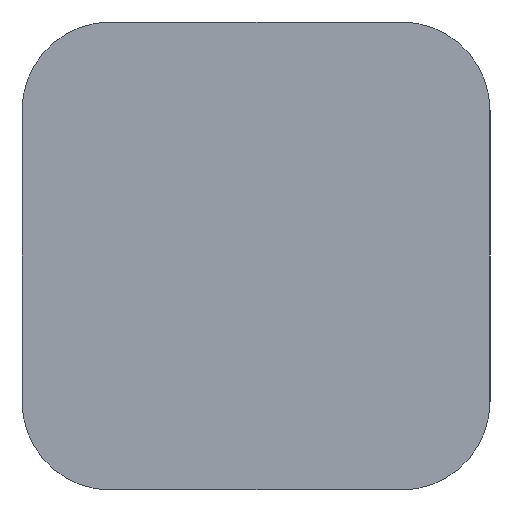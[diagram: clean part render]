
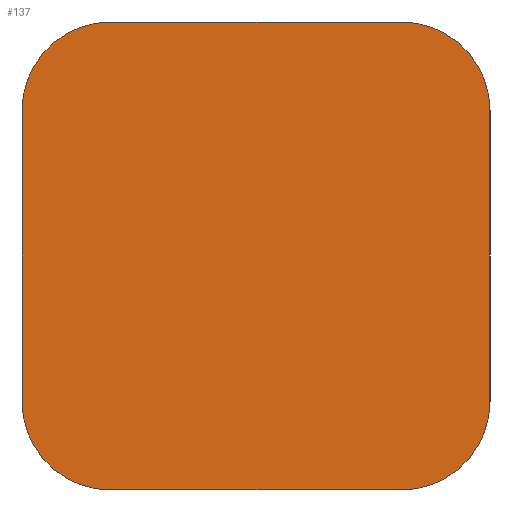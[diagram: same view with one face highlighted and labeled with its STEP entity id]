
A CAD part, left-side view. The second image highlights one B-rep face of the part: STEP entity #137.
In plain terms, the highlighted planar face has unit normal (-1, 0, 0).
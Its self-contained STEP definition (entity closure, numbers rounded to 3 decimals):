
#21 = EDGE_CURVE('',#22,#24,#26,.T.);
#22 = VERTEX_POINT('',#23);
#23 = CARTESIAN_POINT('',(-40.318,8.4,0.7));
#24 = VERTEX_POINT('',#25);
#25 = CARTESIAN_POINT('',(-40.318,8.4,3.));
#26 = SURFACE_CURVE('',#27,(#31,#43),.PCURVE_S1.);
#27 = LINE('',#28,#29);
#28 = CARTESIAN_POINT('',(-40.318,8.4,0.));
#29 = VECTOR('',#30,1.);
#30 = DIRECTION('',(0.,0.,1.));
#31 = PCURVE('',#32,#37);
#32 = PLANE('',#33);
#33 = AXIS2_PLACEMENT_3D('',#34,#35,#36);
#34 = CARTESIAN_POINT('',(-40.318,8.4,0.));
#35 = DIRECTION('',(0.,1.,0.));
#36 = DIRECTION('',(1.,0.,0.));
#37 = DEFINITIONAL_REPRESENTATION('',(#38),#42);
#38 = LINE('',#39,#40);
#39 = CARTESIAN_POINT('',(0.,0.));
#40 = VECTOR('',#41,1.);
#41 = DIRECTION('',(0.,-1.));
#42 = ( GEOMETRIC_REPRESENTATION_CONTEXT(2) 
PARAMETRIC_REPRESENTATION_CONTEXT() REPRESENTATION_CONTEXT('2D SPACE',''
  ) );
#43 = PCURVE('',#44,#49);
#44 = PLANE('',#45);
#45 = AXIS2_PLACEMENT_3D('',#46,#47,#48);
#46 = CARTESIAN_POINT('',(-40.318,4.7,0.));
#47 = DIRECTION('',(-1.,0.,0.));
#48 = DIRECTION('',(0.,1.,0.));
#49 = DEFINITIONAL_REPRESENTATION('',(#50),#54);
#50 = LINE('',#51,#52);
#51 = CARTESIAN_POINT('',(3.7,0.));
#52 = VECTOR('',#53,1.);
#53 = DIRECTION('',(0.,-1.));
#54 = ( GEOMETRIC_REPRESENTATION_CONTEXT(2) 
PARAMETRIC_REPRESENTATION_CONTEXT() REPRESENTATION_CONTEXT('2D SPACE',''
  ) );
#72 = CYLINDRICAL_SURFACE('',#73,0.7);
#73 = AXIS2_PLACEMENT_3D('',#74,#75,#76);
#74 = CARTESIAN_POINT('',(-40.318,7.7,3.));
#75 = DIRECTION('',(1.,0.,0.));
#76 = DIRECTION('',(-0.,1.,0.));
#126 = CYLINDRICAL_SURFACE('',#127,0.7);
#127 = AXIS2_PLACEMENT_3D('',#128,#129,#130);
#128 = CARTESIAN_POINT('',(-40.318,7.7,0.7));
#129 = DIRECTION('',(1.,0.,0.));
#130 = DIRECTION('',(-0.,1.,0.));
#137 = ADVANCED_FACE('',(#138),#44,.T.);
#138 = FACE_BOUND('',#139,.T.);
#139 = EDGE_LOOP('',(#140,#170,#199,#227,#253,#254,#278,#306));
#140 = ORIENTED_EDGE('',*,*,#141,.T.);
#141 = EDGE_CURVE('',#142,#144,#146,.T.);
#142 = VERTEX_POINT('',#143);
#143 = CARTESIAN_POINT('',(-40.318,4.7,0.7));
#144 = VERTEX_POINT('',#145);
#145 = CARTESIAN_POINT('',(-40.318,4.7,3.));
#146 = SURFACE_CURVE('',#147,(#151,#158),.PCURVE_S1.);
#147 = LINE('',#148,#149);
#148 = CARTESIAN_POINT('',(-40.318,4.7,0.));
#149 = VECTOR('',#150,1.);
#150 = DIRECTION('',(0.,0.,1.));
#151 = PCURVE('',#44,#152);
#152 = DEFINITIONAL_REPRESENTATION('',(#153),#157);
#153 = LINE('',#154,#155);
#154 = CARTESIAN_POINT('',(0.,0.));
#155 = VECTOR('',#156,1.);
#156 = DIRECTION('',(0.,-1.));
#157 = ( GEOMETRIC_REPRESENTATION_CONTEXT(2) 
PARAMETRIC_REPRESENTATION_CONTEXT() REPRESENTATION_CONTEXT('2D SPACE',''
  ) );
#158 = PCURVE('',#159,#164);
#159 = PLANE('',#160);
#160 = AXIS2_PLACEMENT_3D('',#161,#162,#163);
#161 = CARTESIAN_POINT('',(139.682,4.7,0.));
#162 = DIRECTION('',(0.,-1.,0.));
#163 = DIRECTION('',(-1.,0.,0.));
#164 = DEFINITIONAL_REPRESENTATION('',(#165),#169);
#165 = LINE('',#166,#167);
#166 = CARTESIAN_POINT('',(180.,0.));
#167 = VECTOR('',#168,1.);
#168 = DIRECTION('',(0.,-1.));
#169 = ( GEOMETRIC_REPRESENTATION_CONTEXT(2) 
PARAMETRIC_REPRESENTATION_CONTEXT() REPRESENTATION_CONTEXT('2D SPACE',''
  ) );
#170 = ORIENTED_EDGE('',*,*,#171,.T.);
#171 = EDGE_CURVE('',#144,#172,#174,.T.);
#172 = VERTEX_POINT('',#173);
#173 = CARTESIAN_POINT('',(-40.318,5.4,3.7));
#174 = SURFACE_CURVE('',#175,(#180,#187),.PCURVE_S1.);
#175 = CIRCLE('',#176,0.7);
#176 = AXIS2_PLACEMENT_3D('',#177,#178,#179);
#177 = CARTESIAN_POINT('',(-40.318,5.4,3.));
#178 = DIRECTION('',(-1.,0.,0.));
#179 = DIRECTION('',(0.,0.,-1.));
#180 = PCURVE('',#44,#181);
#181 = DEFINITIONAL_REPRESENTATION('',(#182),#186);
#182 = CIRCLE('',#183,0.7);
#183 = AXIS2_PLACEMENT_2D('',#184,#185);
#184 = CARTESIAN_POINT('',(0.7,-3.));
#185 = DIRECTION('',(0.,1.));
#186 = ( GEOMETRIC_REPRESENTATION_CONTEXT(2) 
PARAMETRIC_REPRESENTATION_CONTEXT() REPRESENTATION_CONTEXT('2D SPACE',''
  ) );
#187 = PCURVE('',#188,#193);
#188 = CYLINDRICAL_SURFACE('',#189,0.7);
#189 = AXIS2_PLACEMENT_3D('',#190,#191,#192);
#190 = CARTESIAN_POINT('',(139.682,5.4,3.));
#191 = DIRECTION('',(-1.,0.,0.));
#192 = DIRECTION('',(0.,-1.,0.));
#193 = DEFINITIONAL_REPRESENTATION('',(#194),#198);
#194 = LINE('',#195,#196);
#195 = CARTESIAN_POINT('',(-1.571,180.));
#196 = VECTOR('',#197,1.);
#197 = DIRECTION('',(1.,0.));
#198 = ( GEOMETRIC_REPRESENTATION_CONTEXT(2) 
PARAMETRIC_REPRESENTATION_CONTEXT() REPRESENTATION_CONTEXT('2D SPACE',''
  ) );
#199 = ORIENTED_EDGE('',*,*,#200,.T.);
#200 = EDGE_CURVE('',#172,#201,#203,.T.);
#201 = VERTEX_POINT('',#202);
#202 = CARTESIAN_POINT('',(-40.318,7.7,3.7));
#203 = SURFACE_CURVE('',#204,(#208,#215),.PCURVE_S1.);
#204 = LINE('',#205,#206);
#205 = CARTESIAN_POINT('',(-40.318,4.7,3.7));
#206 = VECTOR('',#207,1.);
#207 = DIRECTION('',(0.,1.,0.));
#208 = PCURVE('',#44,#209);
#209 = DEFINITIONAL_REPRESENTATION('',(#210),#214);
#210 = LINE('',#211,#212);
#211 = CARTESIAN_POINT('',(0.,-3.7));
#212 = VECTOR('',#213,1.);
#213 = DIRECTION('',(1.,0.));
#214 = ( GEOMETRIC_REPRESENTATION_CONTEXT(2) 
PARAMETRIC_REPRESENTATION_CONTEXT() REPRESENTATION_CONTEXT('2D SPACE',''
  ) );
#215 = PCURVE('',#216,#221);
#216 = PLANE('',#217);
#217 = AXIS2_PLACEMENT_3D('',#218,#219,#220);
#218 = CARTESIAN_POINT('',(49.682,6.55,3.7));
#219 = DIRECTION('',(0.,0.,1.));
#220 = DIRECTION('',(1.,0.,0.));
#221 = DEFINITIONAL_REPRESENTATION('',(#222),#226);
#222 = LINE('',#223,#224);
#223 = CARTESIAN_POINT('',(-90.,-1.85));
#224 = VECTOR('',#225,1.);
#225 = DIRECTION('',(0.,1.));
#226 = ( GEOMETRIC_REPRESENTATION_CONTEXT(2) 
PARAMETRIC_REPRESENTATION_CONTEXT() REPRESENTATION_CONTEXT('2D SPACE',''
  ) );
#227 = ORIENTED_EDGE('',*,*,#228,.F.);
#228 = EDGE_CURVE('',#24,#201,#229,.T.);
#229 = SURFACE_CURVE('',#230,(#235,#246),.PCURVE_S1.);
#230 = CIRCLE('',#231,0.7);
#231 = AXIS2_PLACEMENT_3D('',#232,#233,#234);
#232 = CARTESIAN_POINT('',(-40.318,7.7,3.));
#233 = DIRECTION('',(1.,0.,0.));
#234 = DIRECTION('',(-0.,0.,1.));
#235 = PCURVE('',#44,#236);
#236 = DEFINITIONAL_REPRESENTATION('',(#237),#245);
#237 = ( BOUNDED_CURVE() B_SPLINE_CURVE(2,(#238,#239,#240,#241,#242,#243
,#244),.UNSPECIFIED.,.T.,.F.) B_SPLINE_CURVE_WITH_KNOTS((1,2,2,2,2,1),(
    -2.094,0.,2.094,4.189,6.283,
8.378),.UNSPECIFIED.) CURVE() GEOMETRIC_REPRESENTATION_ITEM() 
RATIONAL_B_SPLINE_CURVE((1.,0.5,1.,0.5,1.,0.5,1.)) REPRESENTATION_ITEM(
  '') );
#238 = CARTESIAN_POINT('',(3.,-3.7));
#239 = CARTESIAN_POINT('',(1.788,-3.7));
#240 = CARTESIAN_POINT('',(2.394,-2.65));
#241 = CARTESIAN_POINT('',(3.,-1.6));
#242 = CARTESIAN_POINT('',(3.606,-2.65));
#243 = CARTESIAN_POINT('',(4.212,-3.7));
#244 = CARTESIAN_POINT('',(3.,-3.7));
#245 = ( GEOMETRIC_REPRESENTATION_CONTEXT(2) 
PARAMETRIC_REPRESENTATION_CONTEXT() REPRESENTATION_CONTEXT('2D SPACE',''
  ) );
#246 = PCURVE('',#72,#247);
#247 = DEFINITIONAL_REPRESENTATION('',(#248),#252);
#248 = LINE('',#249,#250);
#249 = CARTESIAN_POINT('',(-4.712,0.));
#250 = VECTOR('',#251,1.);
#251 = DIRECTION('',(1.,0.));
#252 = ( GEOMETRIC_REPRESENTATION_CONTEXT(2) 
PARAMETRIC_REPRESENTATION_CONTEXT() REPRESENTATION_CONTEXT('2D SPACE',''
  ) );
#253 = ORIENTED_EDGE('',*,*,#21,.F.);
#254 = ORIENTED_EDGE('',*,*,#255,.T.);
#255 = EDGE_CURVE('',#22,#256,#258,.T.);
#256 = VERTEX_POINT('',#257);
#257 = CARTESIAN_POINT('',(-40.318,7.7,0.)
  );
#258 = SURFACE_CURVE('',#259,(#264,#271),.PCURVE_S1.);
#259 = CIRCLE('',#260,0.7);
#260 = AXIS2_PLACEMENT_3D('',#261,#262,#263);
#261 = CARTESIAN_POINT('',(-40.318,7.7,0.7));
#262 = DIRECTION('',(-1.,0.,-0.));
#263 = DIRECTION('',(-0.,0.,1.));
#264 = PCURVE('',#44,#265);
#265 = DEFINITIONAL_REPRESENTATION('',(#266),#270);
#266 = CIRCLE('',#267,0.7);
#267 = AXIS2_PLACEMENT_2D('',#268,#269);
#268 = CARTESIAN_POINT('',(3.,-0.7));
#269 = DIRECTION('',(0.,-1.));
#270 = ( GEOMETRIC_REPRESENTATION_CONTEXT(2) 
PARAMETRIC_REPRESENTATION_CONTEXT() REPRESENTATION_CONTEXT('2D SPACE',''
  ) );
#271 = PCURVE('',#126,#272);
#272 = DEFINITIONAL_REPRESENTATION('',(#273),#277);
#273 = LINE('',#274,#275);
#274 = CARTESIAN_POINT('',(1.571,-0.));
#275 = VECTOR('',#276,1.);
#276 = DIRECTION('',(-1.,0.));
#277 = ( GEOMETRIC_REPRESENTATION_CONTEXT(2) 
PARAMETRIC_REPRESENTATION_CONTEXT() REPRESENTATION_CONTEXT('2D SPACE',''
  ) );
#278 = ORIENTED_EDGE('',*,*,#279,.F.);
#279 = EDGE_CURVE('',#280,#256,#282,.T.);
#280 = VERTEX_POINT('',#281);
#281 = CARTESIAN_POINT('',(-40.318,5.4,0.)
  );
#282 = SURFACE_CURVE('',#283,(#287,#294),.PCURVE_S1.);
#283 = LINE('',#284,#285);
#284 = CARTESIAN_POINT('',(-40.318,4.7,0.));
#285 = VECTOR('',#286,1.);
#286 = DIRECTION('',(0.,1.,0.));
#287 = PCURVE('',#44,#288);
#288 = DEFINITIONAL_REPRESENTATION('',(#289),#293);
#289 = LINE('',#290,#291);
#290 = CARTESIAN_POINT('',(0.,0.));
#291 = VECTOR('',#292,1.);
#292 = DIRECTION('',(1.,0.));
#293 = ( GEOMETRIC_REPRESENTATION_CONTEXT(2) 
PARAMETRIC_REPRESENTATION_CONTEXT() REPRESENTATION_CONTEXT('2D SPACE',''
  ) );
#294 = PCURVE('',#295,#300);
#295 = PLANE('',#296);
#296 = AXIS2_PLACEMENT_3D('',#297,#298,#299);
#297 = CARTESIAN_POINT('',(49.682,6.55,0.));
#298 = DIRECTION('',(0.,0.,1.));
#299 = DIRECTION('',(1.,0.,0.));
#300 = DEFINITIONAL_REPRESENTATION('',(#301),#305);
#301 = LINE('',#302,#303);
#302 = CARTESIAN_POINT('',(-90.,-1.85));
#303 = VECTOR('',#304,1.);
#304 = DIRECTION('',(0.,1.));
#305 = ( GEOMETRIC_REPRESENTATION_CONTEXT(2) 
PARAMETRIC_REPRESENTATION_CONTEXT() REPRESENTATION_CONTEXT('2D SPACE',''
  ) );
#306 = ORIENTED_EDGE('',*,*,#307,.F.);
#307 = EDGE_CURVE('',#142,#280,#308,.T.);
#308 = SURFACE_CURVE('',#309,(#314,#325),.PCURVE_S1.);
#309 = CIRCLE('',#310,0.7);
#310 = AXIS2_PLACEMENT_3D('',#311,#312,#313);
#311 = CARTESIAN_POINT('',(-40.318,5.4,0.7));
#312 = DIRECTION('',(1.,-0.,0.));
#313 = DIRECTION('',(0.,0.,-1.));
#314 = PCURVE('',#44,#315);
#315 = DEFINITIONAL_REPRESENTATION('',(#316),#324);
#316 = ( BOUNDED_CURVE() B_SPLINE_CURVE(2,(#317,#318,#319,#320,#321,#322
,#323),.UNSPECIFIED.,.T.,.F.) B_SPLINE_CURVE_WITH_KNOTS((1,2,2,2,2,1),(
    -2.094,0.,2.094,4.189,6.283,
8.378),.UNSPECIFIED.) CURVE() GEOMETRIC_REPRESENTATION_ITEM() 
RATIONAL_B_SPLINE_CURVE((1.,0.5,1.,0.5,1.,0.5,1.)) REPRESENTATION_ITEM(
  '') );
#317 = CARTESIAN_POINT('',(0.7,0.));
#318 = CARTESIAN_POINT('',(1.912,0.));
#319 = CARTESIAN_POINT('',(1.306,-1.05));
#320 = CARTESIAN_POINT('',(0.7,-2.1));
#321 = CARTESIAN_POINT('',(0.094,-1.05));
#322 = CARTESIAN_POINT('',(-0.512,0.));
#323 = CARTESIAN_POINT('',(0.7,0.));
#324 = ( GEOMETRIC_REPRESENTATION_CONTEXT(2) 
PARAMETRIC_REPRESENTATION_CONTEXT() REPRESENTATION_CONTEXT('2D SPACE',''
  ) );
#325 = PCURVE('',#326,#331);
#326 = CYLINDRICAL_SURFACE('',#327,0.7);
#327 = AXIS2_PLACEMENT_3D('',#328,#329,#330);
#328 = CARTESIAN_POINT('',(139.682,5.4,0.7));
#329 = DIRECTION('',(-1.,0.,0.));
#330 = DIRECTION('',(0.,-1.,0.));
#331 = DEFINITIONAL_REPRESENTATION('',(#332),#336);
#332 = LINE('',#333,#334);
#333 = CARTESIAN_POINT('',(4.712,180.));
#334 = VECTOR('',#335,1.);
#335 = DIRECTION('',(-1.,0.));
#336 = ( GEOMETRIC_REPRESENTATION_CONTEXT(2) 
PARAMETRIC_REPRESENTATION_CONTEXT() REPRESENTATION_CONTEXT('2D SPACE',''
  ) );
